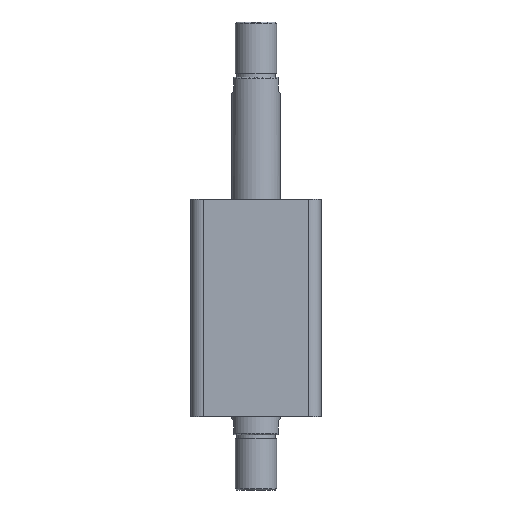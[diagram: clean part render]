
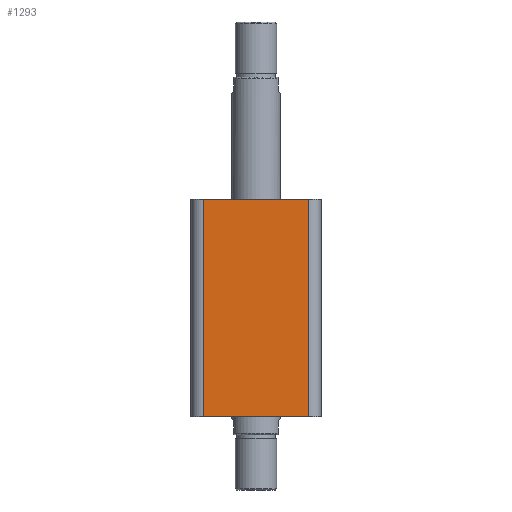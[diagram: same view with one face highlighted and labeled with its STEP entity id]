
A CAD part, front view. The second image highlights one B-rep face of the part: STEP entity #1293.
In plain terms, the highlighted planar face has unit normal (0, -1, 0).
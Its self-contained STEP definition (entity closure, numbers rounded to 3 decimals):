
#763 = EDGE_CURVE ( 'NONE', #2624, #2633, #2662, .T. ) ;
#764 = EDGE_CURVE ( 'NONE', #2624, #2634, #2664, .T. ) ;
#767 = ORIENTED_EDGE ( 'NONE', *, *, #799, .T. ) ;
#768 = ORIENTED_EDGE ( 'NONE', *, *, #800, .T. ) ;
#799 = EDGE_CURVE ( 'NONE', #2634, #2635, #2669, .T. ) ;
#800 = EDGE_CURVE ( 'NONE', #2635, #2633, #2670, .T. ) ;
#802 = ORIENTED_EDGE ( 'NONE', *, *, #764, .T. ) ;
#803 = ORIENTED_EDGE ( 'NONE', *, *, #763, .F. ) ;
#1293 = ADVANCED_FACE ( 'NONE', ( #2813 ), #2378, .F. ) ;
#1495 = CARTESIAN_POINT ( 'NONE',  ( -38., -47., 157. ) ) ;
#1504 = CARTESIAN_POINT ( 'NONE',  ( 38., -47., 157. ) ) ;
#1505 = CARTESIAN_POINT ( 'NONE',  ( -38., -47., 0. ) ) ;
#1506 = CARTESIAN_POINT ( 'NONE',  ( 38., -47., 0. ) ) ;
#2105 = CARTESIAN_POINT ( 'NONE',  ( -47., -47., 157. ) ) ;
#2106 = CARTESIAN_POINT ( 'NONE',  ( -38., -47., 157. ) ) ;
#2108 = DIRECTION ( 'NONE',  ( 1., 0., 0. ) ) ;
#2109 = DIRECTION ( 'NONE',  ( 0., 0., -1. ) ) ;
#2113 = CARTESIAN_POINT ( 'NONE',  ( -47., -47., 0. ) ) ;
#2117 = DIRECTION ( 'NONE',  ( 1., 0., 0. ) ) ;
#2124 = CARTESIAN_POINT ( 'NONE',  ( 38., -47., 157. ) ) ;
#2125 = DIRECTION ( 'NONE',  ( 0., 0., 1. ) ) ;
#2376 = CARTESIAN_POINT ( 'NONE',  ( -47., -47., 157. ) ) ;
#2378 = PLANE ( 'NONE',  #3298 ) ;
#2380 = DIRECTION ( 'NONE',  ( 0., 1., 0. ) ) ;
#2381 = DIRECTION ( 'NONE',  ( 0., 0., 1. ) ) ;
#2483 = EDGE_LOOP ( 'NONE', ( #803, #802, #767, #768 ) ) ;
#2624 = VERTEX_POINT ( 'NONE', #1495 ) ;
#2633 = VERTEX_POINT ( 'NONE', #1504 ) ;
#2634 = VERTEX_POINT ( 'NONE', #1505 ) ;
#2635 = VERTEX_POINT ( 'NONE', #1506 ) ;
#2659 = VECTOR ( 'NONE', #2109, 1000. ) ;
#2661 = VECTOR ( 'NONE', #2108, 1000. ) ;
#2662 = LINE ( 'NONE', #2105, #2661 ) ;
#2664 = LINE ( 'NONE', #2106, #2659 ) ;
#2669 = LINE ( 'NONE', #2113, #2672 ) ;
#2670 = LINE ( 'NONE', #2124, #2674 ) ;
#2672 = VECTOR ( 'NONE', #2117, 1000. ) ;
#2674 = VECTOR ( 'NONE', #2125, 1000. ) ;
#2813 = FACE_OUTER_BOUND ( 'NONE', #2483, .T. ) ;
#3298 = AXIS2_PLACEMENT_3D ( 'NONE', #2376, #2380, #2381 ) ;
